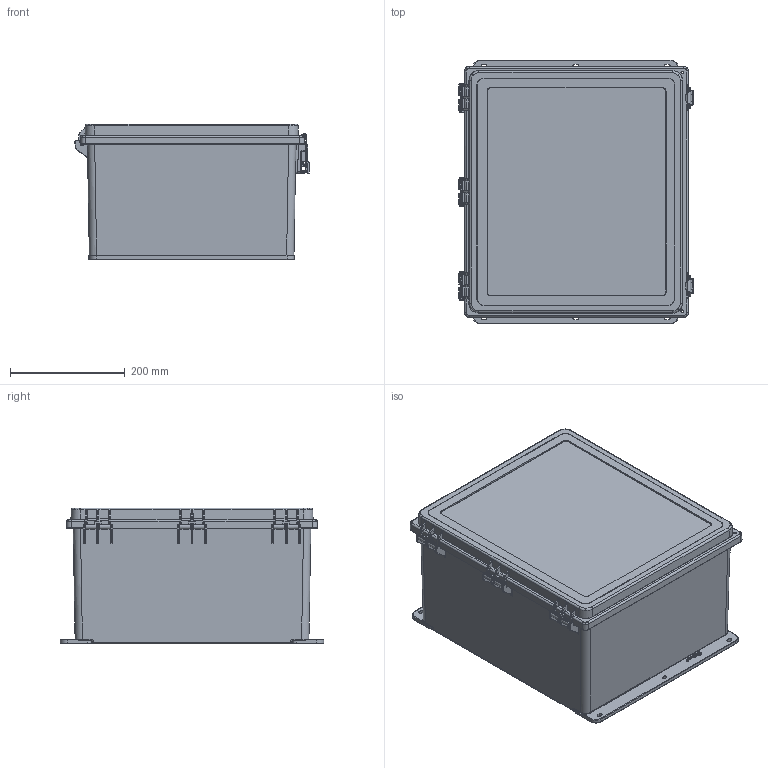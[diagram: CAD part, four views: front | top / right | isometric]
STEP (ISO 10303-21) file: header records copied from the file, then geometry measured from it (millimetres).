
FILE_DESCRIPTION (( 'STEP AP203' ), '1' );
FILE_NAME ('d16148wfw.STEP', '2019-07-12T18:39:49', ( '' ), ( '' ), 'SwSTEP 2.0', 'SolidWorks 2016', '' );
FILE_SCHEMA (( 'CONFIG_CONTROL_DESIGN' ));
Length unit declared in the file: inch
Products named in the file (13): 87952921; 87791244; 87925638_87925638; 87934975_87934975; 87925608_87925608; 87934973_87934973; 87933276_87933276; 87934971_87934971; 87933263_87933263; 87938571_87938571; 87925772_87925629; d16148wfw; 87929601_87929601
Assembly tree (14 placements, depth 3):
  d16148wfw
    87933263_87933263
      87925608_87925608
      87933276_87933276
    87952921
      87925772_87925629
      87929601_87929601
    87791244
    87925638_87925638  x2
    87938571_87938571  x2
      87934975_87934975
      87934973_87934973
      87934971_87934971
Bounding box: 407.52 x 458.22 x 235.93 mm (x, y, z)
Volume: 5282298.3 mm3; surface area: 1928769.2 mm2
Topology: 15 solids, 15 shells, 6030 faces, 15250 edges, 8864 vertices
Faces by surface type: cylinder 2014, plane 1680, bspline 1417, sphere 527, torus 293, cone 99
Entity records: 166411 total; most frequent: CARTESIAN_POINT 72206, ORIENTED_EDGE 21068, DIRECTION 17032, EDGE_CURVE 10534, VERTEX_POINT 6360, AXIS2_PLACEMENT_3D 6057, LINE 4918, VECTOR 4918
